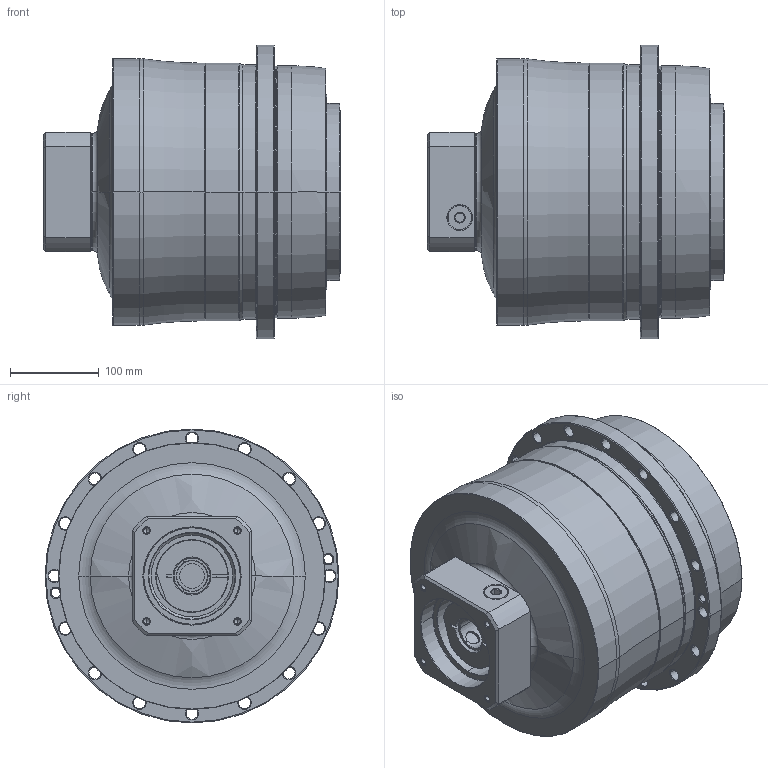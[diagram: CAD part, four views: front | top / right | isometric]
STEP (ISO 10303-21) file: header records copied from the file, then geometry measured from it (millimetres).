
FILE_DESCRIPTION((''),'2;1');
FILE_NAME('AH285_2ST_35-P0409800101_ASM','2016-08-16T',('d01943'),(''),'PRO/ENGINEER BY PARAMETRIC TECHNOLOGY CORPORATION, 2008410','PRO/ENGINEER BY PARAMETRIC TECHNOLOGY CORPORATION, 2008410','');
FILE_SCHEMA(('CONFIG_CONTROL_DESIGN'));
Length unit declared in the file: millimetre
Products named in the file (8): P0278800003; P0359800003; P1317800001; P0409800101; P0503800012; P0912700001; 21711422019; AH285_2ST_35-P0409800101_ASM
Assembly tree (7 placements, depth 2):
  AH285_2ST_35-P0409800101_ASM
    P0278800003
    P0359800003
    P1317800001
    P0409800101
    P0503800012
    P0912700001
    21711422019
Bounding box: 335.5 x 332 x 332 mm (x, y, z)
Volume: 17558265.8 mm3; surface area: 929707.3 mm2
Topology: 8 solids, 8 shells, 587 faces, 1333 edges, 779 vertices
Faces by surface type: cylinder 218, cone 194, plane 95, torus 64, bspline 16
Entity records: 20926 total; most frequent: CARTESIAN_POINT 7465, DIRECTION 3039, ORIENTED_EDGE 2574, EDGE_CURVE 1287, AXIS2_PLACEMENT_3D 1278, VERTEX_POINT 779, EDGE_LOOP 700, CIRCLE 692
